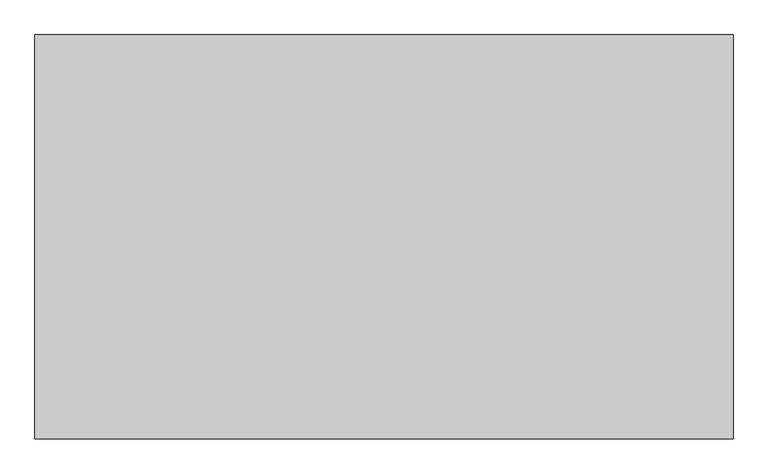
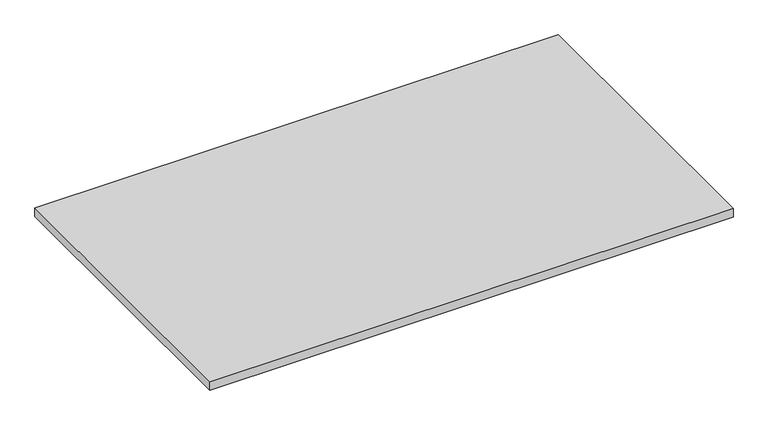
"""IFC4 building model written with IfcOpenShell, lengths in millimetres: proxy geometry, ELEVATE^ADMIN_72.5x42-WOOD DIVIDER WALL."""

from ifc_helpers import new_model, si_unit, origin, origin_with_axes, place, context, project, spatial, polyline, outline, extrude, source, transform, mapped, element, save


def generic_models_5d0dc971(model_context):
    return source(origin(), model_context, "Body", "SweptSolid", [
        extrude(outline(polyline([(1841.5, 1066.8), (1841.5, 0.0), (0.0, 0.0), (0.0, 1066.8), (1841.5, 1066.8)])), origin_with_axes(), (0.0, 0.0, 1.0), 31.75),
    ])


if __name__ == "__main__":
    model = new_model("IFC4")
    model_context = context("Model", 3, world=origin())
    ifc_project = project(units=[si_unit("LENGTHUNIT", "METRE", prefix="MILLI")], contexts=[model_context])
    site = spatial("IfcSite", under=ifc_project)
    building = spatial("IfcBuilding", under=site)
    placement = place(None, origin())
    generic_models_shape = generic_models_5d0dc971(model_context)
    element("IfcBuildingElementProxy", 1, Name="ELEVATE^ADMIN_72.5x42-WOOD DIVIDER WALL", ObjectType="ELEVATE^ADMIN_72.5x42-WOOD DIVIDER WALL", at=placement, inside=building, context=model_context, shape_type="MappedRepresentation", body=[
        mapped(generic_models_shape, transform((0.0, 0.0, 0.0), x_axis=(1.0, 0.0, 0.0), y_axis=(0.0, 1.0, 0.0), z_axis=(0.0, 0.0, 1.0))),
    ])
    save(model, "model.ifc")
